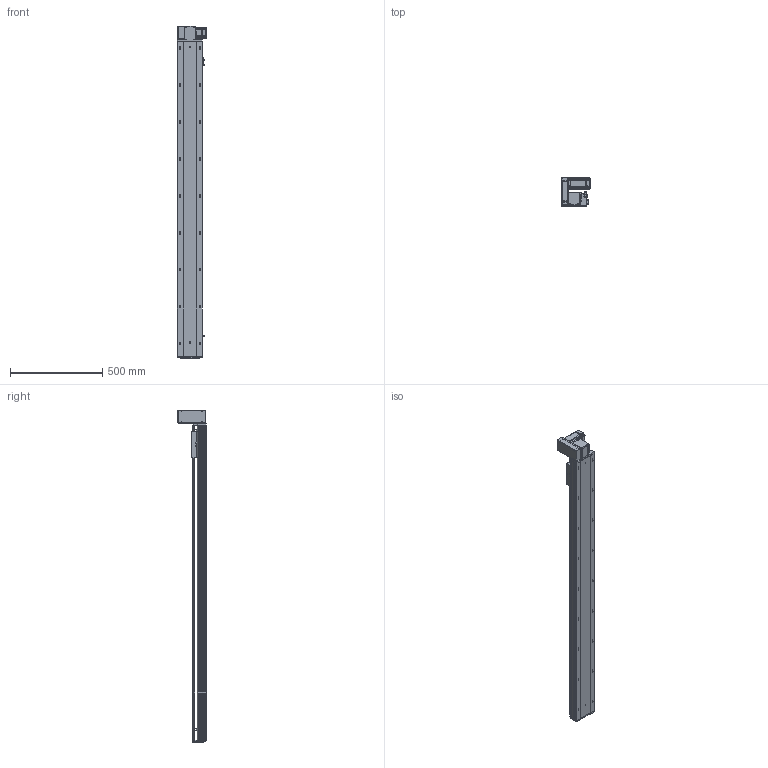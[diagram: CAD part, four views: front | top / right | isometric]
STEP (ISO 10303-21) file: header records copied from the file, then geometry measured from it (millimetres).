
FILE_DESCRIPTION (( 'STEP AP203' ), '1' );
FILE_NAME ('RY140-T-300-UL.SLDASM_1450.step', '2021-03-01T07:44:28', ( '盈信电脑' ), ( '东莞市道滘镇水果街19号' ), 'SwSTEP 2.0', 'SolidWorks 2012', '' );
FILE_SCHEMA (( 'CONFIG_CONTROL_DESIGN' ));
Products named in the file (18): RY140-T-300-UL.SLDASM_1450; 滅袉蝶18-10; RY140-T萇儂欶; RY120-T蹟翐M4; RY140-T翋肮謫裔啣; RY120-T主同步轮轴承压盖; 15; RY140-T萇儂假蚾啣; 侂狟400W侜督萇儂; RY120-T肮祭湍揤踡輸1; RY120-T肮祭湍揤踡輸2; RY140-T翋肮祭謫盓傅釱; RY120外置感应片(140共用）; 覜茼ん672; RY140-T-300-DL倰第奻裔啣_1450; RY140綴裔啣; RY140-T-300-DL倰第菁釱_1450; RY140肮祭謫臏賑輸
Assembly tree (23 placements, depth 3):
  RY140-T-300-UL.SLDASM_1450
    RY140-T-300-DL倰第菁釱_1450
    RY140肮祭謫臏賑輸
    RY140-T-300-DL倰第奻裔啣_1450
    RY140綴裔啣
    覜茼ん672  x3
    RY120外置感应片(140共用）
    RY120-T肮祭湍揤踡輸2
    RY120-T肮祭湍揤踡輸1
    RY140-T翋肮祭謫盓傅釱
    RY140-T萇儂假蚾啣
    侂狟400W侜督萇儂
      15
    RY120-T主同步轮轴承压盖
    RY120-T蹟翐M4  x4
    RY140-T萇儂欶
    滅袉蝶18-10  x2
    RY140-T翋肮謫裔啣
Bounding box: 157 x 152.5 x 1796 mm (x, y, z)
Volume: 5073668 mm3; surface area: 1963708.3 mm2
Topology: 22 solids, 22 shells, 2759 faces, 7557 edges, 4828 vertices
Faces by surface type: plane 1381, cylinder 1028, cone 250, bspline 100
Entity records: 87159 total; most frequent: CARTESIAN_POINT 21189, ORIENTED_EDGE 13538, DIRECTION 12921, EDGE_CURVE 6769, VERTEX_POINT 4427, AXIS2_PLACEMENT_3D 4312, VECTOR 4297, LINE 4297
